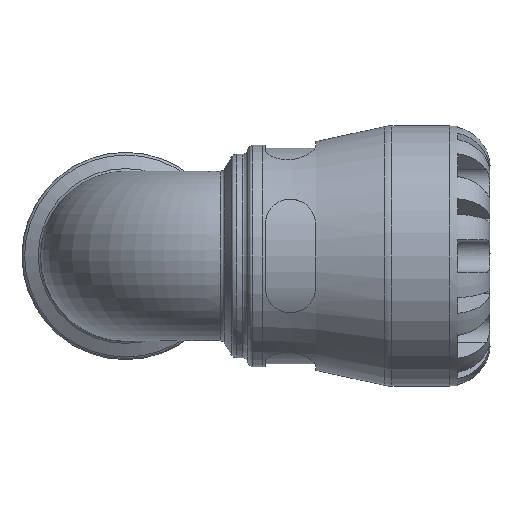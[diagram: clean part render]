
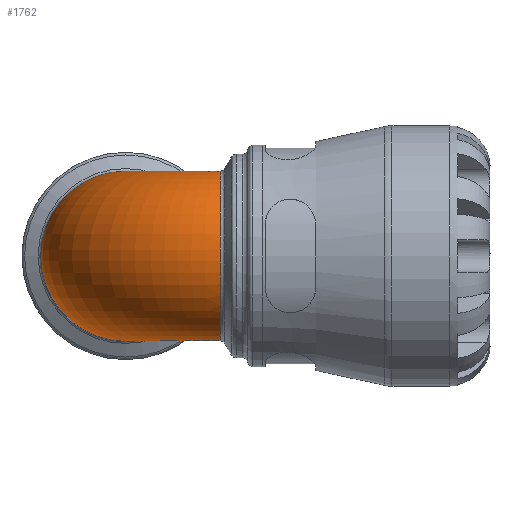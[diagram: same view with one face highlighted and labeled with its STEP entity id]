
A CAD part, front view. The second image highlights one B-rep face of the part: STEP entity #1762.
In plain terms, the highlighted toroidal (fillet/blend) face has major radius 23.875 mm and minor radius 18.86 mm.
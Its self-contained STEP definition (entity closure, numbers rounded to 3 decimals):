
#236=B_SPLINE_CURVE_WITH_KNOTS('',3,(#2699,#2700,#2701,#2702,#2703,#2704,
#2705,#2706,#2707,#2708,#2709,#2710,#2711,#2712,#2713,#2714,#2715,#2716,
#2717),.UNSPECIFIED.,.T.,.F.,(4,1,1,1,1,1,1,1,1,1,1,1,1,1,1,1,4),(-3.142,
-2.917,-2.693,-2.244,-1.795,
-1.346,-0.898,-0.449,-0.15,
0.449,0.748,1.346,1.795,2.244,
2.693,2.917,3.142),.UNSPECIFIED.);
#357=FACE_BOUND('',#512,.T.);
#389=FACE_OUTER_BOUND('',#511,.T.);
#511=EDGE_LOOP('',(#1167));
#512=EDGE_LOOP('',(#1168));
#634=CIRCLE('',#1873,18.86);
#731=VERTEX_POINT('',#2580);
#733=VERTEX_POINT('',#2697);
#894=EDGE_CURVE('',#731,#731,#634,.T.);
#896=EDGE_CURVE('',#733,#733,#236,.T.);
#1167=ORIENTED_EDGE('',*,*,#896,.F.);
#1168=ORIENTED_EDGE('',*,*,#894,.T.);
#1632=TOROIDAL_SURFACE('',#1887,23.875,18.86);
#1762=ADVANCED_FACE('',(#389,#357),#1632,.T.);
#1873=AXIS2_PLACEMENT_3D('',#2581,#2091,#2092);
#1887=AXIS2_PLACEMENT_3D('',#2956,#2120,#2121);
#2091=DIRECTION('center_axis',(0.,-1.,0.));
#2092=DIRECTION('ref_axis',(-1.,0.,0.));
#2120=DIRECTION('center_axis',(0.,0.,1.));
#2121=DIRECTION('ref_axis',(1.,0.,0.));
#2580=CARTESIAN_POINT('',(18.86,23.875,0.));
#2581=CARTESIAN_POINT('Origin',(0.,23.875,0.));
#2697=CARTESIAN_POINT('',(20.631,20.05,0.));
#2699=CARTESIAN_POINT('Ctrl Pts',(20.631,20.052,0.));
#2700=CARTESIAN_POINT('Ctrl Pts',(20.631,20.052,1.421));
#2701=CARTESIAN_POINT('Ctrl Pts',(20.653,19.59,4.262));
#2702=CARTESIAN_POINT('Ctrl Pts',(20.774,17.302,9.569));
#2703=CARTESIAN_POINT('Ctrl Pts',(20.912,12.594,15.158));
#2704=CARTESIAN_POINT('Ctrl Pts',(20.987,4.716,18.972));
#2705=CARTESIAN_POINT('Ctrl Pts',(21.026,-4.033,19.057));
#2706=CARTESIAN_POINT('Ctrl Pts',(21.044,-11.959,15.334));
#2707=CARTESIAN_POINT('Ctrl Pts',(21.053,-16.838,9.286));
#2708=CARTESIAN_POINT('Ctrl Pts',(21.056,-19.418,1.041));
#2709=CARTESIAN_POINT('Ctrl Pts',(21.055,-18.226,-6.785));
#2710=CARTESIAN_POINT('Ctrl Pts',(21.045,-12.77,-14.689));
#2711=CARTESIAN_POINT('Ctrl Pts',(21.03,-5.018,-19.076));
#2712=CARTESIAN_POINT('Ctrl Pts',(20.987,4.721,-18.968));
#2713=CARTESIAN_POINT('Ctrl Pts',(20.912,12.591,-15.161));
#2714=CARTESIAN_POINT('Ctrl Pts',(20.774,17.303,-9.568));
#2715=CARTESIAN_POINT('Ctrl Pts',(20.653,19.59,-4.263));
#2716=CARTESIAN_POINT('Ctrl Pts',(20.631,20.052,-1.421));
#2717=CARTESIAN_POINT('Ctrl Pts',(20.631,20.052,0.));
#2956=CARTESIAN_POINT('Origin',(23.875,23.875,0.));
